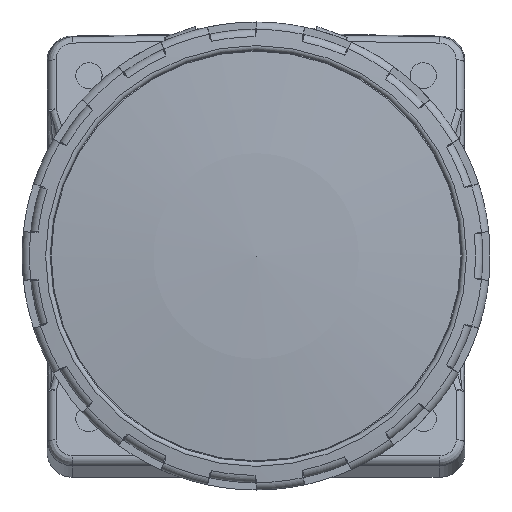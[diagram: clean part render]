
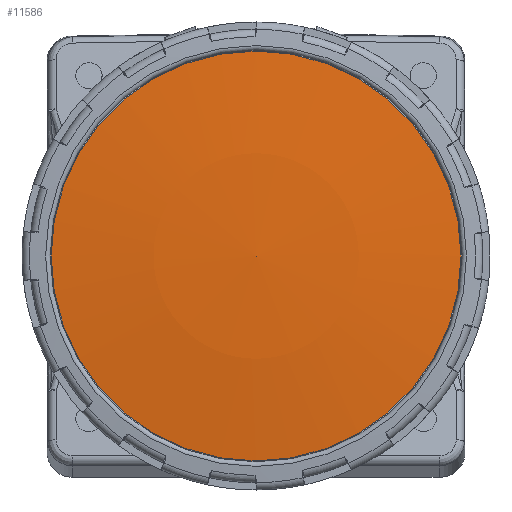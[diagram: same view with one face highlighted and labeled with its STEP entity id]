
A CAD part, left-side view. The second image highlights one B-rep face of the part: STEP entity #11586.
In plain terms, the highlighted spherical face has radius 458 mm.
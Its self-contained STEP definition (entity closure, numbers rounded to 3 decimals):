
#37=SPHERICAL_SURFACE('',#32900,458.);
#11586=ADVANCED_FACE('',(#12894),#37,.T.);
#12894=FACE_OUTER_BOUND('',#14005,.T.);
#14005=EDGE_LOOP('',(#20396));
#15011=CIRCLE('',#32898,49.05);
#20396=ORIENTED_EDGE('',*,*,#27795,.T.);
#23912=VERTEX_POINT('',#66419);
#27795=EDGE_CURVE('',#23912,#23912,#15011,.T.);
#32898=AXIS2_PLACEMENT_3D('',#66418,#38155,#38156);
#32900=AXIS2_PLACEMENT_3D('',#66421,#38159,#38160);
#38155=DIRECTION('',(-1.,0.,0.));
#38156=DIRECTION('',(0.,0.,1.));
#38159=DIRECTION('',(-1.,0.,0.));
#38160=DIRECTION('',(0.,0.,1.));
#66418=CARTESIAN_POINT('',(-87.166,0.212,0.454));
#66419=CARTESIAN_POINT('',(-87.166,0.212,49.504));
#66421=CARTESIAN_POINT('',(368.2,0.212,0.454));
